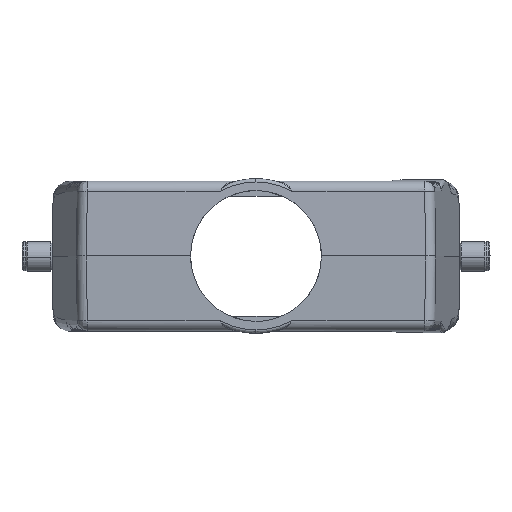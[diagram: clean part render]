
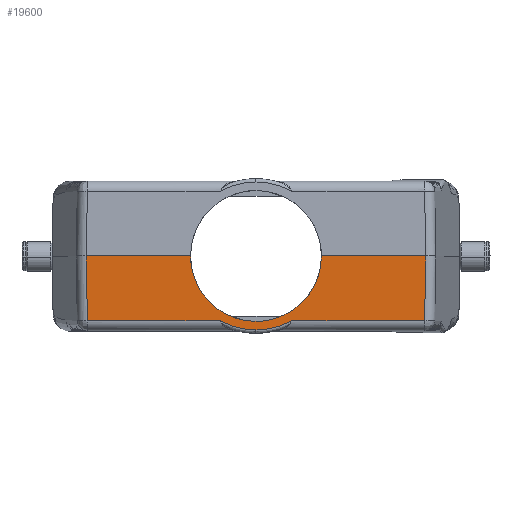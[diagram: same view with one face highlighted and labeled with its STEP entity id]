
A CAD part, top view. The second image highlights one B-rep face of the part: STEP entity #19600.
In plain terms, the highlighted planar face has unit normal (0, -0.018, 1) as drawn and (0, 1, 0.017) by its records, which use the part's own axes.
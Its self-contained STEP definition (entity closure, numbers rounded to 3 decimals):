
#139 = CARTESIAN_POINT ( 'NONE',  ( 52.5, 75.667, 19.052 ) ) ;
#348 = LINE ( 'NONE', #27104, #6341 ) ;
#825 = CARTESIAN_POINT ( 'NONE',  ( 19.25, 75.803, 11.276 ) ) ;
#985 = FACE_OUTER_BOUND ( 'NONE', #2741, .T. ) ;
#990 = CARTESIAN_POINT ( 'NONE',  ( -19.25, 76., 0. ) ) ;
#1368 = CARTESIAN_POINT ( 'NONE',  ( 49.622, 75.667, 19.053 ) ) ;
#1427 = CARTESIAN_POINT ( 'NONE',  ( 1.837, 75.62, 21.767 ) ) ;
#1438 = VERTEX_POINT ( 'NONE', #20188 ) ;
#1824 = ORIENTED_EDGE ( 'NONE', *, *, #27796, .T. ) ;
#2524 = EDGE_CURVE ( 'NONE', #20486, #1438, #9936, .T. ) ;
#2706 = DIRECTION ( 'NONE',  ( 0., 1., 0.017 ) ) ;
#2741 = EDGE_LOOP ( 'NONE', ( #14121, #20342, #10002, #4557, #1824, #16623, #27357, #11510, #27786, #25333 ) ) ;
#2871 = EDGE_CURVE ( 'NONE', #25512, #9669, #19673, .T. ) ;
#2924 = VERTEX_POINT ( 'NONE', #13795 ) ;
#3157 = CARTESIAN_POINT ( 'NONE',  ( 11.276, 75.664, 19.25 ) ) ;
#3352 = CARTESIAN_POINT ( 'NONE',  ( 19.25, 76., 0. ) ) ;
#4334 = EDGE_CURVE ( 'NONE', #23109, #25512, #348, .T. ) ;
#4557 = ORIENTED_EDGE ( 'NONE', *, *, #2524, .T. ) ;
#4872 = VERTEX_POINT ( 'NONE', #21623 ) ;
#5750 = CARTESIAN_POINT ( 'NONE',  ( 7.213, 75.64, 20.619 ) ) ;
#5938 = CARTESIAN_POINT ( 'NONE',  ( 10.523, 75.667, 19.052 ) ) ;
#6080 = CARTESIAN_POINT ( 'NONE',  ( 49.909, 76., 0. ) ) ;
#6341 = VECTOR ( 'NONE', #18030, 1000. ) ;
#6564 = PLANE ( 'NONE',  #10243 ) ;
#6845 = DIRECTION ( 'NONE',  ( 0.015, 0.017, -1. ) ) ;
#6971 = CARTESIAN_POINT ( 'NONE',  ( -0.007, 75.62, 21.767 ) ) ;
#7096 = CARTESIAN_POINT ( 'NONE',  ( 19.25, 76., 0. ) ) ;
#7436 = VECTOR ( 'NONE', #15782, 1000. ) ;
#7469 = CARTESIAN_POINT ( 'NONE',  ( -19.25, 75.803, 11.276 ) ) ;
#7809 = CARTESIAN_POINT ( 'NONE',  ( 0., 75.664, 19.25 ) ) ;
#7893 = VERTEX_POINT ( 'NONE', #6971 ) ;
#9669 = VERTEX_POINT ( 'NONE', #6080 ) ;
#9729 =( BOUNDED_CURVE ( )  B_SPLINE_CURVE ( 3, ( #28047, #11942, #7469, #990 ),
 .UNSPECIFIED., .F., .F. ) 
 B_SPLINE_CURVE_WITH_KNOTS ( ( 4, 4 ),
 ( 3.142, 4.712 ),
 .UNSPECIFIED. ) 
 CURVE ( )  GEOMETRIC_REPRESENTATION_ITEM ( )  RATIONAL_B_SPLINE_CURVE ( ( 1., 0.805, 0.805, 1. ) ) 
 REPRESENTATION_ITEM ( '' )  );
#9936 = LINE ( 'NONE', #19777, #27291 ) ;
#10002 = ORIENTED_EDGE ( 'NONE', *, *, #26279, .T. ) ;
#10068 = VECTOR ( 'NONE', #6845, 1000. ) ;
#10112 = CARTESIAN_POINT ( 'NONE',  ( 52.5, 76., 0. ) ) ;
#10243 = AXIS2_PLACEMENT_3D ( 'NONE', #15768, #2706, #13992 ) ;
#11429 = CARTESIAN_POINT ( 'NONE',  ( -49.909, 76., 0. ) ) ;
#11508 = CARTESIAN_POINT ( 'NONE',  ( 49.622, 75.667, 19.052 ) ) ;
#11510 = ORIENTED_EDGE ( 'NONE', *, *, #17900, .T. ) ;
#11942 = CARTESIAN_POINT ( 'NONE',  ( -11.276, 75.664, 19.25 ) ) ;
#13141 = CARTESIAN_POINT ( 'NONE',  ( -3.659, 75.624, 21.536 ) ) ;
#13331 = DIRECTION ( 'NONE',  ( -1., 0., 0. ) ) ;
#13336 = CARTESIAN_POINT ( 'NONE',  ( -1.849, 75.62, 21.766 ) ) ;
#13553 = LINE ( 'NONE', #10112, #24130 ) ;
#13795 = CARTESIAN_POINT ( 'NONE',  ( -49.622, 75.667, 19.052 ) ) ;
#13992 = DIRECTION ( 'NONE',  ( 0., -0.017, 1. ) ) ;
#14121 = ORIENTED_EDGE ( 'NONE', *, *, #29278, .T. ) ;
#14983 = VECTOR ( 'NONE', #20469, 1000. ) ;
#15048 = B_SPLINE_CURVE_WITH_KNOTS ( 'NONE', 3,
 ( #19410, #1427, #25925, #5750, #23752, #5938 ),
 .UNSPECIFIED., .F., .F.,
 ( 4, 2, 4 ),
 ( 0., 0.5, 1. ),
 .UNSPECIFIED. ) ;
#15768 = CARTESIAN_POINT ( 'NONE',  ( 52.5, 76., 0. ) ) ;
#15782 = DIRECTION ( 'NONE',  ( 0.015, -0.017, 1. ) ) ;
#16623 = ORIENTED_EDGE ( 'NONE', *, *, #23854, .T. ) ;
#16773 = DIRECTION ( 'NONE',  ( -1., 0., 0. ) ) ;
#17793 = CARTESIAN_POINT ( 'NONE',  ( -8.913, 75.652, 19.942 ) ) ;
#17900 = EDGE_CURVE ( 'NONE', #7893, #23109, #15048, .T. ) ;
#17916 = VERTEX_POINT ( 'NONE', #7809 ) ;
#18030 = DIRECTION ( 'NONE',  ( 1., 0., 0. ) ) ;
#18871 = LINE ( 'NONE', #139, #14983 ) ;
#19077 = B_SPLINE_CURVE_WITH_KNOTS ( 'NONE', 3,
 ( #26681, #17793, #20079, #13141, #13336, #20167 ),
 .UNSPECIFIED., .F., .F.,
 ( 4, 2, 4 ),
 ( 0., 0.5, 1. ),
 .UNSPECIFIED. ) ;
#19410 = CARTESIAN_POINT ( 'NONE',  ( -0.007, 75.62, 21.767 ) ) ;
#19600 = ADVANCED_FACE ( 'NONE', ( #985 ), #6564, .T. ) ;
#19673 = LINE ( 'NONE', #11508, #10068 ) ;
#19777 = CARTESIAN_POINT ( 'NONE',  ( 52.5, 76., 0. ) ) ;
#20079 = CARTESIAN_POINT ( 'NONE',  ( -7.217, 75.64, 20.617 ) ) ;
#20167 = CARTESIAN_POINT ( 'NONE',  ( -0.007, 75.62, 21.767 ) ) ;
#20188 = CARTESIAN_POINT ( 'NONE',  ( -49.909, 76., 0. ) ) ;
#20342 = ORIENTED_EDGE ( 'NONE', *, *, #28997, .T. ) ;
#20469 = DIRECTION ( 'NONE',  ( 1., 0., 0. ) ) ;
#20486 = VERTEX_POINT ( 'NONE', #24166 ) ;
#21552 = CARTESIAN_POINT ( 'NONE',  ( 0., 75.664, 19.25 ) ) ;
#21623 = CARTESIAN_POINT ( 'NONE',  ( -10.523, 75.667, 19.052 ) ) ;
#23109 = VERTEX_POINT ( 'NONE', #27636 ) ;
#23749 = LINE ( 'NONE', #11429, #7436 ) ;
#23752 = CARTESIAN_POINT ( 'NONE',  ( 8.911, 75.652, 19.944 ) ) ;
#23854 = EDGE_CURVE ( 'NONE', #2924, #4872, #18871, .T. ) ;
#23943 = VERTEX_POINT ( 'NONE', #7096 ) ;
#24130 = VECTOR ( 'NONE', #16773, 1000. ) ;
#24166 = CARTESIAN_POINT ( 'NONE',  ( -19.25, 76., 0. ) ) ;
#24384 =( BOUNDED_CURVE ( )  B_SPLINE_CURVE ( 3, ( #3352, #825, #3157, #21552 ),
 .UNSPECIFIED., .F., .F. ) 
 B_SPLINE_CURVE_WITH_KNOTS ( ( 4, 4 ),
 ( 1.571, 3.142 ),
 .UNSPECIFIED. ) 
 CURVE ( )  GEOMETRIC_REPRESENTATION_ITEM ( )  RATIONAL_B_SPLINE_CURVE ( ( 1., 0.805, 0.805, 1. ) ) 
 REPRESENTATION_ITEM ( '' )  );
#25333 = ORIENTED_EDGE ( 'NONE', *, *, #2871, .T. ) ;
#25512 = VERTEX_POINT ( 'NONE', #1368 ) ;
#25925 = CARTESIAN_POINT ( 'NONE',  ( 3.649, 75.624, 21.538 ) ) ;
#26279 = EDGE_CURVE ( 'NONE', #17916, #20486, #9729, .T. ) ;
#26681 = CARTESIAN_POINT ( 'NONE',  ( -10.523, 75.667, 19.052 ) ) ;
#27104 = CARTESIAN_POINT ( 'NONE',  ( 52.5, 75.667, 19.052 ) ) ;
#27291 = VECTOR ( 'NONE', #13331, 1000. ) ;
#27357 = ORIENTED_EDGE ( 'NONE', *, *, #29128, .T. ) ;
#27636 = CARTESIAN_POINT ( 'NONE',  ( 10.523, 75.667, 19.052 ) ) ;
#27786 = ORIENTED_EDGE ( 'NONE', *, *, #4334, .T. ) ;
#27796 = EDGE_CURVE ( 'NONE', #1438, #2924, #23749, .T. ) ;
#28047 = CARTESIAN_POINT ( 'NONE',  ( 0., 75.664, 19.25 ) ) ;
#28997 = EDGE_CURVE ( 'NONE', #23943, #17916, #24384, .T. ) ;
#29128 = EDGE_CURVE ( 'NONE', #4872, #7893, #19077, .T. ) ;
#29278 = EDGE_CURVE ( 'NONE', #9669, #23943, #13553, .T. ) ;
